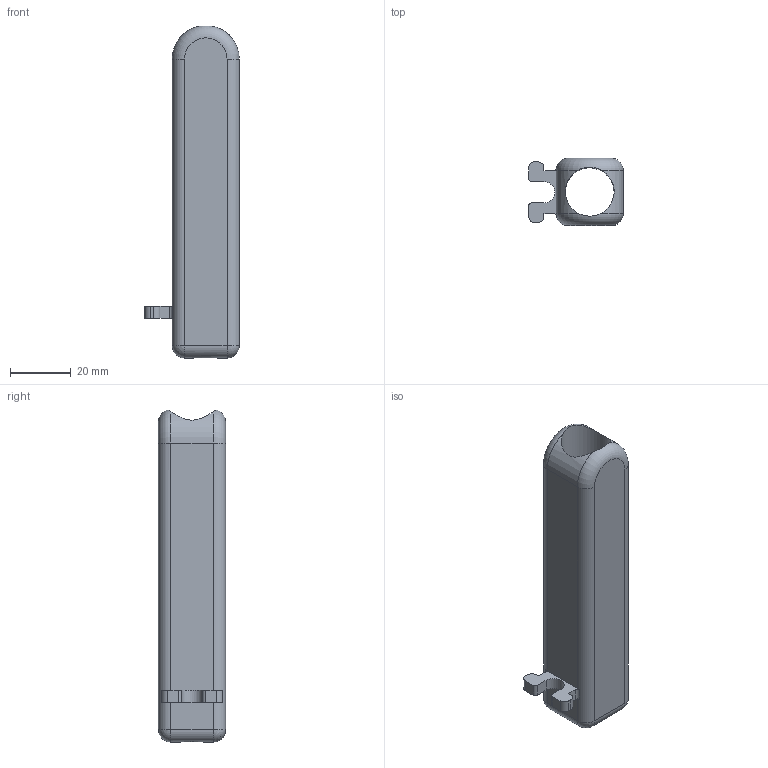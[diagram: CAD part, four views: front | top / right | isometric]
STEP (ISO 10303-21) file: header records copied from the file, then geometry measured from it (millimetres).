
FILE_DESCRIPTION(/* description */ (''),/* implementation_level */ '2;1');
FILE_NAME(/* name */ 'C:/Users/Owner/Desktop/KCAD Projects/K-CAD Songbird PM4 Center-fire/STEP/Barrels/Barrel Type 3/Barrel Type 3- 16mm ID.step',/* time_stamp */ '2021-03-12T15:18:20-05:00',/* author */ (''),/* organization */ (''),/* preprocessor_version */ 'ST-DEVELOPER v18.1',/* originating_system */ 'Autodesk Translation Framework v9.10.0.1330',/* authorisation */ '');
FILE_SCHEMA (('AUTOMOTIVE_DESIGN { 1 0 10303 214 3 1 1 }'));
Length unit declared in the file: millimetre
Products named in the file (1): Barrel Type 3 0.4 inch ID
Bounding box: 31 x 22 x 108.87 mm (x, y, z)
Volume: 28426.9 mm3; surface area: 14615.7 mm2
Topology: 1 solids, 1 shells, 47 faces, 128 edges, 80 vertices
Faces by surface type: plane 21, cylinder 20, sphere 4, torus 2
Full cylindrical faces by diameter (mm): 16 x1
Entity records: 1597 total; most frequent: CARTESIAN_POINT 349, DIRECTION 263, ORIENTED_EDGE 254, EDGE_CURVE 127, AXIS2_PLACEMENT_3D 98, VERTEX_POINT 80, LINE 67, VECTOR 67
